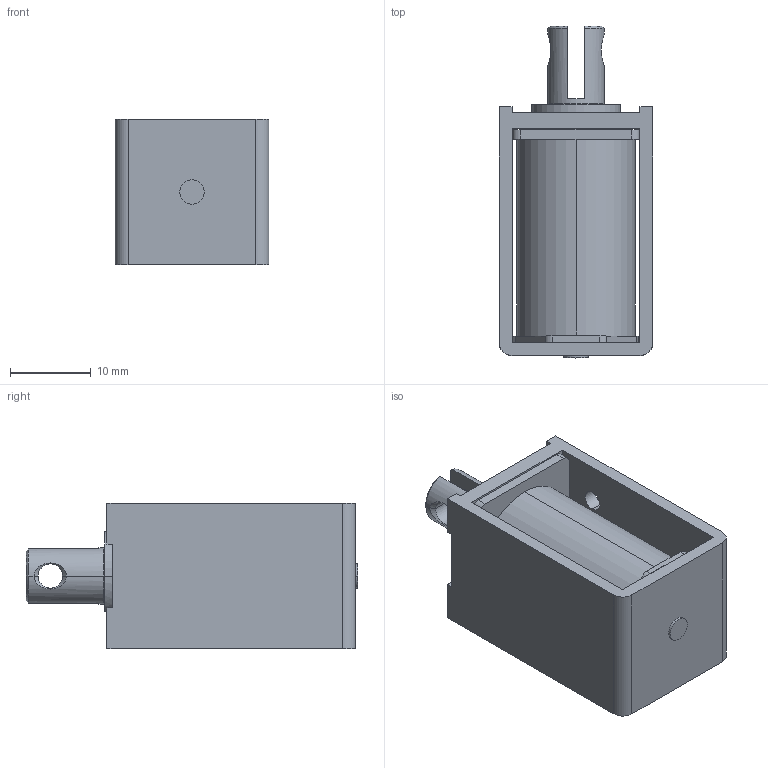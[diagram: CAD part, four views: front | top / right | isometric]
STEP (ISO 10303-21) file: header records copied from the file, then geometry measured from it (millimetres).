
FILE_DESCRIPTION (( 'STEP AP203' ), '1' );
FILE_NAME ('w_ca0730.STEP', '2014-07-11T04:25:14', ( 'jiba' ), ( 'Hewlett-Packard Company' ), 'SwSTEP 2.0', 'SolidWorks 2014', '' );
FILE_SCHEMA (( 'CONFIG_CONTROL_DESIGN' ));
Length unit declared in the file: millimetre
Products named in the file (3): Part1^w_ca0730_pl; w_ca0730; Part3^w_ca0730
Assembly tree (2 placements, depth 2):
  w_ca0730
    Part3^w_ca0730
    Part1^w_ca0730_pl
Bounding box: 19 x 41 x 18 mm (x, y, z)
Volume: 7560.2 mm3; surface area: 6828.3 mm2
Topology: 2 solids, 2 shells, 127 faces, 343 edges, 222 vertices
Faces by surface type: plane 61, cylinder 59, cone 7
Entity records: 4454 total; most frequent: CARTESIAN_POINT 804, DIRECTION 745, ORIENTED_EDGE 686, EDGE_CURVE 343, AXIS2_PLACEMENT_3D 279, VERTEX_POINT 222, VECTOR 187, LINE 187
